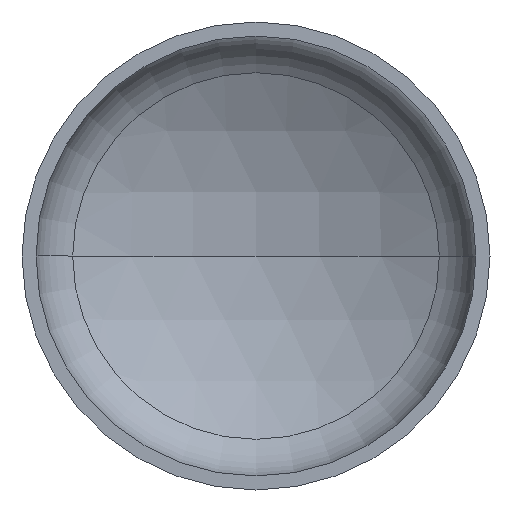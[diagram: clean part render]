
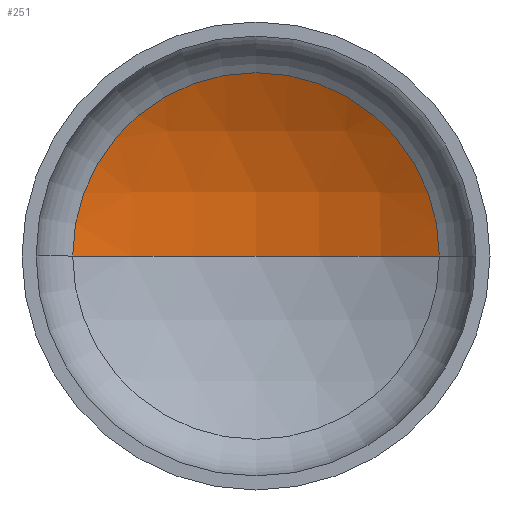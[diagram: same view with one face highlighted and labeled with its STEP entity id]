
A CAD part, front view. The second image highlights one B-rep face of the part: STEP entity #251.
In plain terms, the highlighted spherical face has radius 1200 mm.
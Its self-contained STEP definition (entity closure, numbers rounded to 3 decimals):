
#5 = AXIS2_PLACEMENT_3D ( 'NONE', #152, #317, #249 ) ;
#8 = AXIS2_PLACEMENT_3D ( 'NONE', #364, #230, #386 ) ;
#21 = ORIENTED_EDGE ( 'NONE', *, *, #348, .T. ) ;
#22 = AXIS2_PLACEMENT_3D ( 'NONE', #172, #338, #197 ) ;
#40 = AXIS2_PLACEMENT_3D ( 'NONE', #228, #246, #376 ) ;
#52 = EDGE_LOOP ( 'NONE', ( #79, #69, #21 ) ) ;
#69 = ORIENTED_EDGE ( 'NONE', *, *, #387, .T. ) ;
#79 = ORIENTED_EDGE ( 'NONE', *, *, #384, .F. ) ;
#86 = VERTEX_POINT ( 'NONE', #154 ) ;
#129 = VERTEX_POINT ( 'NONE', #275 ) ;
#136 = VERTEX_POINT ( 'NONE', #263 ) ;
#152 = CARTESIAN_POINT ( 'NONE',  ( 0., -705.739, 0. ) ) ;
#154 = CARTESIAN_POINT ( 'NONE',  ( 0., 494.261, 0. ) ) ;
#172 = CARTESIAN_POINT ( 'NONE',  ( 0., 340.536, 0. ) ) ;
#182 = SPHERICAL_SURFACE ( 'NONE', #40, 1200. ) ;
#195 = CIRCLE ( 'NONE', #8, 1200. ) ;
#197 = DIRECTION ( 'NONE',  ( 1., 0., 0. ) ) ;
#228 = CARTESIAN_POINT ( 'NONE',  ( 0., -705.739, 0. ) ) ;
#230 = DIRECTION ( 'NONE',  ( 0., 0., -1. ) ) ;
#246 = DIRECTION ( 'NONE',  ( 0., 0., -1. ) ) ;
#249 = DIRECTION ( 'NONE',  ( 1., 0., 0. ) ) ;
#251 = ADVANCED_FACE ( 'NONE', ( #290 ), #182, .F. ) ;
#263 = CARTESIAN_POINT ( 'NONE',  ( -587.629, 340.536, 0. ) ) ;
#266 = CIRCLE ( 'NONE', #22, 587.629 ) ;
#275 = CARTESIAN_POINT ( 'NONE',  ( 587.629, 340.536, 0. ) ) ;
#290 = FACE_OUTER_BOUND ( 'NONE', #52, .T. ) ;
#317 = DIRECTION ( 'NONE',  ( 0., 0., 1. ) ) ;
#338 = DIRECTION ( 'NONE',  ( 0., -1., 0. ) ) ;
#348 = EDGE_CURVE ( 'NONE', #129, #136, #266, .T. ) ;
#364 = CARTESIAN_POINT ( 'NONE',  ( 0., -705.739, 0. ) ) ;
#373 = CIRCLE ( 'NONE', #5, 1200. ) ;
#376 = DIRECTION ( 'NONE',  ( -1., 0., 0. ) ) ;
#384 = EDGE_CURVE ( 'NONE', #86, #136, #373, .T. ) ;
#386 = DIRECTION ( 'NONE',  ( -1., 0., 0. ) ) ;
#387 = EDGE_CURVE ( 'NONE', #86, #129, #195, .T. ) ;
